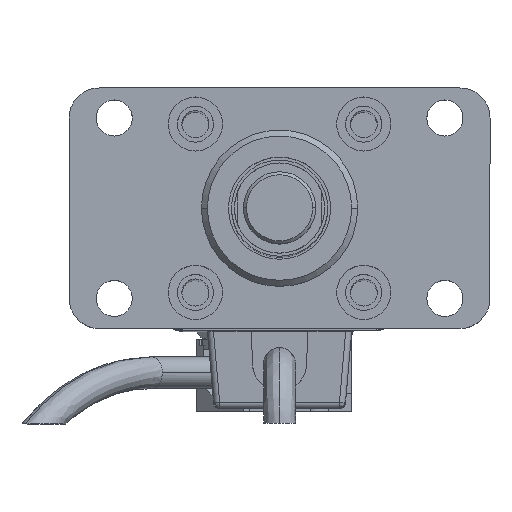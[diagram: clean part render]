
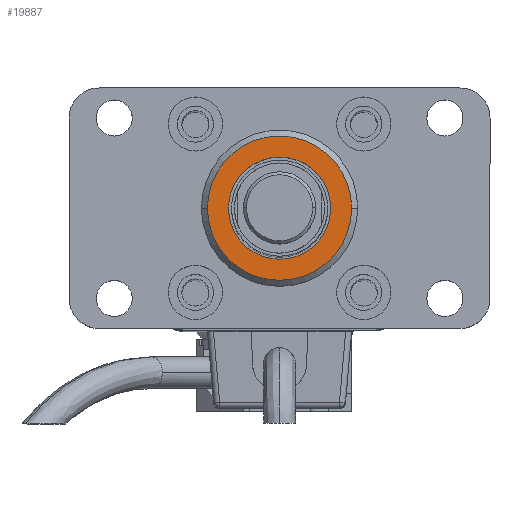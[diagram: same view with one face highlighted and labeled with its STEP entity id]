
A CAD part, top view. The second image highlights one B-rep face of the part: STEP entity #19887.
In plain terms, the highlighted planar face has unit normal (0, 0, 1) as drawn and (0, 0, -1) by its records, which use the part's own axes.
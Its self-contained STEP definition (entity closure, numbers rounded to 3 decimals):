
#386 = CIRCLE ( 'NONE', #3202, 12. ) ;
#856 = VERTEX_POINT ( 'NONE', #24738 ) ;
#1641 = DIRECTION ( 'NONE',  ( -1., 0., 0. ) ) ;
#1798 = ORIENTED_EDGE ( 'NONE', *, *, #11937, .T. ) ;
#1840 = CARTESIAN_POINT ( 'NONE',  ( 0., 0., -3. ) ) ;
#3125 = DIRECTION ( 'NONE',  ( 0., 0., -1. ) ) ;
#3202 = AXIS2_PLACEMENT_3D ( 'NONE', #11349, #26679, #16052 ) ;
#4795 = AXIS2_PLACEMENT_3D ( 'NONE', #1840, #10625, #25971 ) ;
#6237 = AXIS2_PLACEMENT_3D ( 'NONE', #10742, #8661, #26080 ) ;
#6894 = EDGE_CURVE ( 'NONE', #856, #26675, #23716, .T. ) ;
#7649 = FACE_OUTER_BOUND ( 'NONE', #16017, .T. ) ;
#8604 = EDGE_LOOP ( 'NONE', ( #20180, #12590 ) ) ;
#8661 = DIRECTION ( 'NONE',  ( 0., 0., -1. ) ) ;
#9107 = CARTESIAN_POINT ( 'NONE',  ( 0., 0., -3. ) ) ;
#9122 = CARTESIAN_POINT ( 'NONE',  ( -8.5, 0., -3. ) ) ;
#9778 = AXIS2_PLACEMENT_3D ( 'NONE', #20525, #3125, #22738 ) ;
#10625 = DIRECTION ( 'NONE',  ( 0., 0., -1. ) ) ;
#10742 = CARTESIAN_POINT ( 'NONE',  ( 0., 0., -3. ) ) ;
#11298 = EDGE_CURVE ( 'NONE', #19950, #18580, #13323, .T. ) ;
#11349 = CARTESIAN_POINT ( 'NONE',  ( 0., 0., -3. ) ) ;
#11937 = EDGE_CURVE ( 'NONE', #26675, #856, #386, .T. ) ;
#12077 = FACE_BOUND ( 'NONE', #8604, .T. ) ;
#12590 = ORIENTED_EDGE ( 'NONE', *, *, #11298, .F. ) ;
#13323 = CIRCLE ( 'NONE', #9778, 8.5 ) ;
#13428 = CARTESIAN_POINT ( 'NONE',  ( 8.5, 0., -3. ) ) ;
#15438 = DIRECTION ( 'NONE',  ( 0., 0., -1. ) ) ;
#16017 = EDGE_LOOP ( 'NONE', ( #1798, #26530 ) ) ;
#16052 = DIRECTION ( 'NONE',  ( -1., 0., 0. ) ) ;
#18580 = VERTEX_POINT ( 'NONE', #13428 ) ;
#19498 = AXIS2_PLACEMENT_3D ( 'NONE', #9107, #15438, #1641 ) ;
#19887 = ADVANCED_FACE ( 'NONE', ( #7649, #12077 ), #28088, .T. ) ;
#19950 = VERTEX_POINT ( 'NONE', #9122 ) ;
#20180 = ORIENTED_EDGE ( 'NONE', *, *, #22851, .F. ) ;
#20525 = CARTESIAN_POINT ( 'NONE',  ( 0., 0., -3. ) ) ;
#22738 = DIRECTION ( 'NONE',  ( -1., 0., 0. ) ) ;
#22851 = EDGE_CURVE ( 'NONE', #18580, #19950, #24144, .T. ) ;
#23716 = CIRCLE ( 'NONE', #6237, 12. ) ;
#24144 = CIRCLE ( 'NONE', #19498, 8.5 ) ;
#24738 = CARTESIAN_POINT ( 'NONE',  ( -12., 0., -3. ) ) ;
#25971 = DIRECTION ( 'NONE',  ( -1., 0., 0. ) ) ;
#26080 = DIRECTION ( 'NONE',  ( -1., 0., 0. ) ) ;
#26530 = ORIENTED_EDGE ( 'NONE', *, *, #6894, .T. ) ;
#26675 = VERTEX_POINT ( 'NONE', #27562 ) ;
#26679 = DIRECTION ( 'NONE',  ( 0., 0., -1. ) ) ;
#27562 = CARTESIAN_POINT ( 'NONE',  ( 12., 0., -3. ) ) ;
#28088 = PLANE ( 'NONE',  #4795 ) ;
